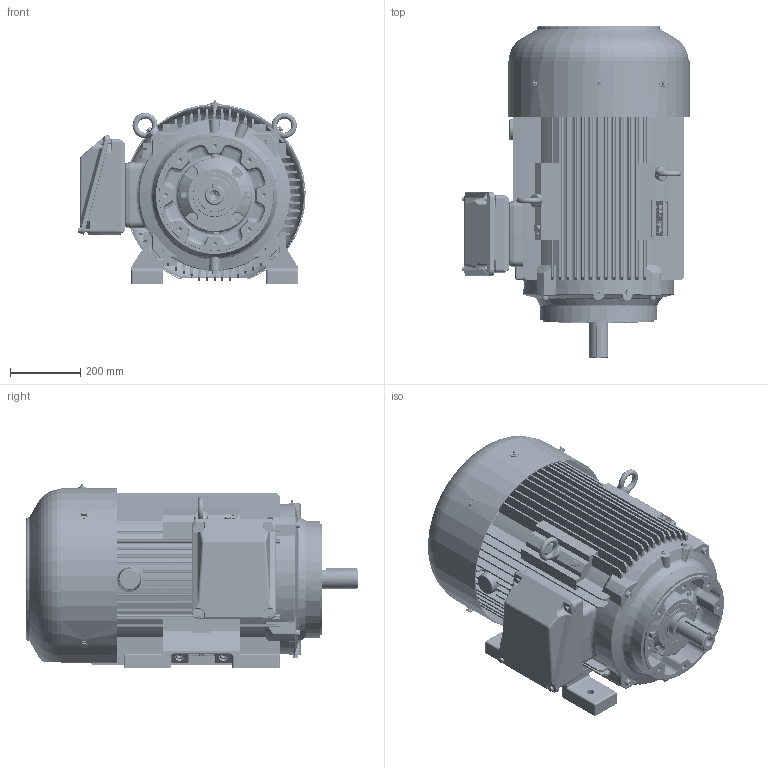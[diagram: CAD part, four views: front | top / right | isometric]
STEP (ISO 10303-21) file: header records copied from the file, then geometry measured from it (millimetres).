
FILE_DESCRIPTION(/* description */ ('Unknown','CAx-IF Rec.Pracs.---Representation and Presentation of Product Manufacturing Information (PMI)---4.0---2014-10-13','CAx-IF Rec.Pracs.---3D Tessellated Geometry---0.4---2014-09-14','2;1'),/* implementation_level */ '2;1');
FILE_NAME(/* name */ 'Silnik SIE400TSCL2',/* time_stamp */ '2024-07-08T08:54:59+02:00',/* author */ ('Unknown'),/* organization */ ('Unknown'),/* preprocessor_version */ 'ST-DEVELOPER v16.7',/* originating_system */ 'DEX',/* authorisation */ $);
FILE_SCHEMA (('AP242_MANAGED_MODEL_BASED_3D_ENGINEERING_MIM_LF { 1 0 10303 442 20130219 1 4 }'));
Length unit declared in the file: millimetre
Products named in the file (1): Silnik  SIE400TSCL2
Bounding box: 648.98 x 947.48 x 526 mm (x, y, z)
Volume: 86639943.3 mm3; surface area: 7755783.8 mm2
Topology: 11 solids, 70 shells, 10311 faces, 26892 edges, 16759 vertices
Faces by surface type: plane 5540, cylinder 2213, bspline 1061, torus 870, cone 404, sphere 223
Full cylindrical faces by diameter (mm): 1.6 x2, 2.459 x2, 2.5 x4, 3 x17, 3.4 x4, 4.917 x2, 5 x6, 6 x5, 6.2 x14, 6.3 x1, 6.35 x3, 6.4 x2, 6.466 x8, 6.647 x8, 8 x31, 8.376 x5, 8.4 x2, 8.5 x5, 8.917 x1, 9 x12, 9.853 x8, 10 x23, 10.106 x10, 10.5 x5, 11.63 x5, 12 x20, 13 x8, 13.546 x4, 13.835 x12, 14 x9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
Entity records: 352169 total; most frequent: CARTESIAN_POINT 110045, ORIENTED_EDGE 50884, DIRECTION 46428, EDGE_CURVE 25442, VERTEX_POINT 16327, AXIS2_PLACEMENT_3D 15486, LINE 15456, VECTOR 15456
